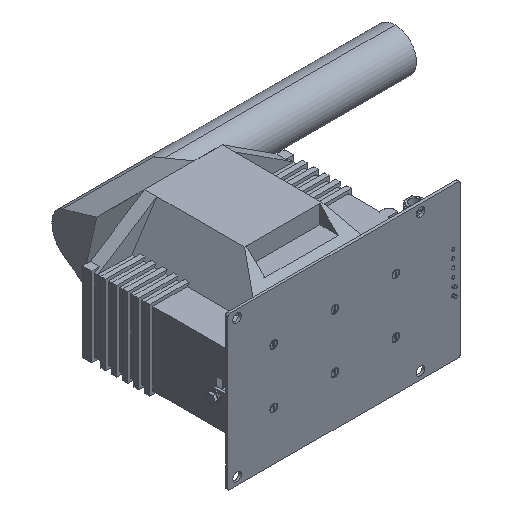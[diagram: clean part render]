
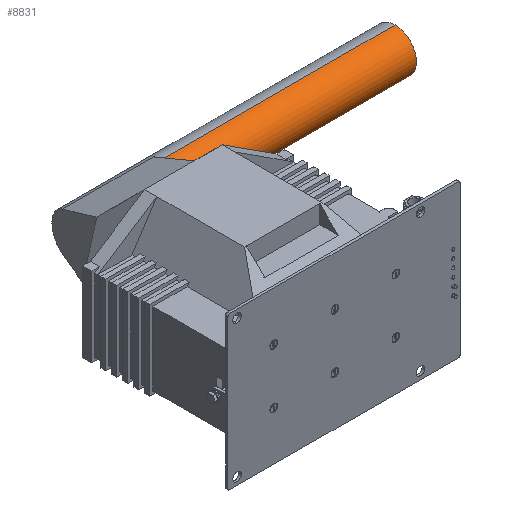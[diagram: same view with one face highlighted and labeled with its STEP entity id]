
A CAD part, isometric view. The second image highlights one B-rep face of the part: STEP entity #8831.
In plain terms, the highlighted cylindrical face has radius 35 mm (diameter 70 mm), a partial arc.
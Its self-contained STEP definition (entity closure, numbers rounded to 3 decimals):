
#2689 = ORIENTED_EDGE ( 'NONE', *, *, #17468, .T. ) ;
#3099 = VECTOR ( 'NONE', #26587, 1000. ) ;
#3267 = AXIS2_PLACEMENT_3D ( 'NONE', #18421, #48441, #43979 ) ;
#5150 = CARTESIAN_POINT ( 'NONE',  ( 462.6, 207., 0. ) ) ;
#8831 = ADVANCED_FACE ( 'NONE', ( #45372 ), #32709, .T. ) ;
#9282 = VERTEX_POINT ( 'NONE', #26200 ) ;
#9422 = DIRECTION ( 'NONE',  ( 0., 0., 1. ) ) ;
#10210 = CARTESIAN_POINT ( 'NONE',  ( 80., 207., -35. ) ) ;
#11370 = AXIS2_PLACEMENT_3D ( 'NONE', #5150, #35009, #9422 ) ;
#11375 = CARTESIAN_POINT ( 'NONE',  ( 80., 207., 0. ) ) ;
#11501 = EDGE_LOOP ( 'NONE', ( #32431, #2689, #53500, #51257 ) ) ;
#12135 = CIRCLE ( 'NONE', #11370, 35. ) ;
#13700 = CARTESIAN_POINT ( 'NONE',  ( 80., 207., 35. ) ) ;
#13721 = EDGE_CURVE ( 'NONE', #19209, #29884, #30505, .T. ) ;
#15649 = DIRECTION ( 'NONE',  ( 0., 0., -1. ) ) ;
#15714 = LINE ( 'NONE', #13700, #3099 ) ;
#16808 = VERTEX_POINT ( 'NONE', #22190 ) ;
#17468 = EDGE_CURVE ( 'NONE', #19209, #9282, #12135, .T. ) ;
#18421 = CARTESIAN_POINT ( 'NONE',  ( 80., 207., 0. ) ) ;
#19161 = VECTOR ( 'NONE', #48626, 1000. ) ;
#19209 = VERTEX_POINT ( 'NONE', #26230 ) ;
#21640 = EDGE_CURVE ( 'NONE', #9282, #16808, #15714, .T. ) ;
#22190 = CARTESIAN_POINT ( 'NONE',  ( 80., 207., 35. ) ) ;
#26200 = CARTESIAN_POINT ( 'NONE',  ( 462.6, 207., 35. ) ) ;
#26230 = CARTESIAN_POINT ( 'NONE',  ( 462.6, 207., -35. ) ) ;
#26587 = DIRECTION ( 'NONE',  ( -1., 0., 0. ) ) ;
#28012 = CIRCLE ( 'NONE', #29345, 35. ) ;
#29345 = AXIS2_PLACEMENT_3D ( 'NONE', #11375, #41242, #15649 ) ;
#29884 = VERTEX_POINT ( 'NONE', #35973 ) ;
#30505 = LINE ( 'NONE', #10210, #19161 ) ;
#32431 = ORIENTED_EDGE ( 'NONE', *, *, #13721, .F. ) ;
#32709 = CYLINDRICAL_SURFACE ( 'NONE', #3267, 35. ) ;
#35009 = DIRECTION ( 'NONE',  ( -1., 0., 0. ) ) ;
#35973 = CARTESIAN_POINT ( 'NONE',  ( 80., 207., -35. ) ) ;
#41184 = EDGE_CURVE ( 'NONE', #29884, #16808, #28012, .T. ) ;
#41242 = DIRECTION ( 'NONE',  ( -1., 0., 0. ) ) ;
#43979 = DIRECTION ( 'NONE',  ( 0., 0., 1. ) ) ;
#45372 = FACE_OUTER_BOUND ( 'NONE', #11501, .T. ) ;
#48441 = DIRECTION ( 'NONE',  ( -1., 0., 0. ) ) ;
#48626 = DIRECTION ( 'NONE',  ( -1., 0., 0. ) ) ;
#51257 = ORIENTED_EDGE ( 'NONE', *, *, #41184, .F. ) ;
#53500 = ORIENTED_EDGE ( 'NONE', *, *, #21640, .T. ) ;
